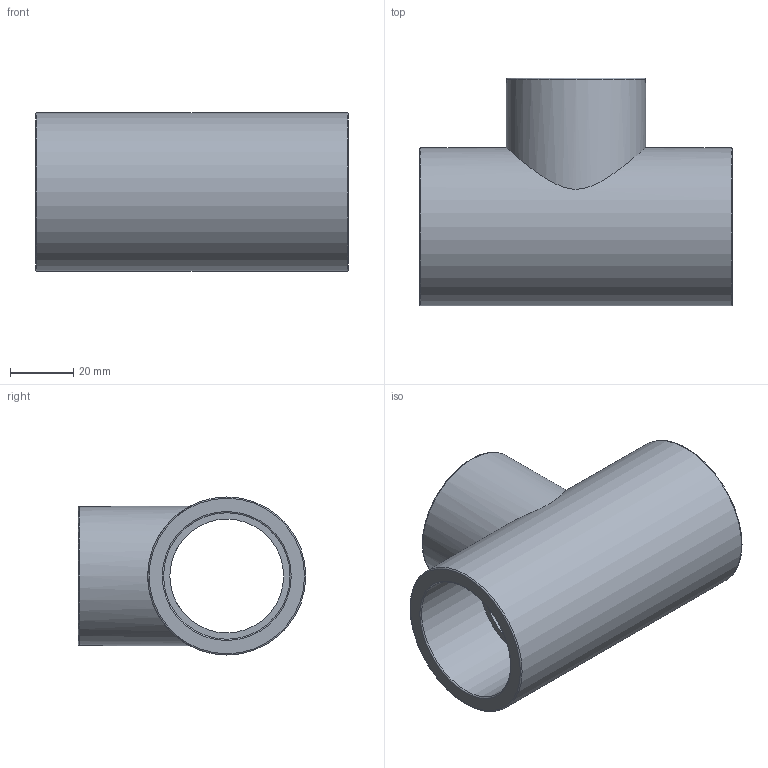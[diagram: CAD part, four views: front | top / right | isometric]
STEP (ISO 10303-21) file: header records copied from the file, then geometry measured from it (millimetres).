
FILE_DESCRIPTION(/* description */ ('PLASSON REDUCER TEE - CEMENT PVC 40-32-40'),/* implementation_level */ '2;1');
FILE_NAME(/* name */ 'C:\Dropbox\KIMPROJECTS-Inventor\99-16-3568-Processing\PVC Catalog 2017\051400\051400040032.ipt.stp',/* time_stamp */ '2017-12-07T16:00:16+02:00',/* author */ ('KIM'),/* organization */ (''),/* preprocessor_version */ 'ST-DEVELOPER v15.6',/* originating_system */ 'Autodesk Inventor 2015',/* authorisation */ '');
FILE_SCHEMA (('AUTOMOTIVE_DESIGN { 1 0 10303 214 3 1 1 }'));
Length unit declared in the file: millimetre
Products named in the file (1): 051400040032
Bounding box: 99 x 72 x 50 mm (x, y, z)
Volume: 95506.8 mm3; surface area: 34570.4 mm2
Topology: 1 solids, 1 shells, 19 faces, 40 edges, 25 vertices
Faces by surface type: cylinder 7, torus 6, plane 6
Full cylindrical faces by diameter (mm): 28.8 x1, 32 x1, 36 x1, 40 x2, 44 x1, 50 x1
Entity records: 544 total; most frequent: CARTESIAN_POINT 176, DIRECTION 78, ORIENTED_EDGE 42, EDGE_LOOP 40, AXIS2_PLACEMENT_3D 39, FACE_BOUND 21, VERTEX_POINT 21, EDGE_CURVE 21
